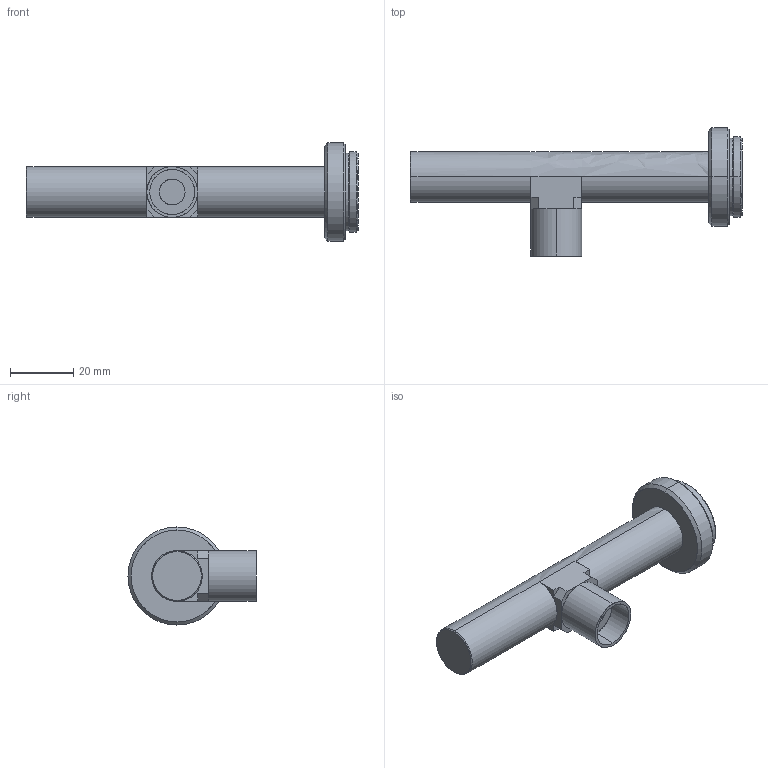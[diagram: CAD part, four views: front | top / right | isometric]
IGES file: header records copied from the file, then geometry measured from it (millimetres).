
Start section: SolidWorks IGES file using analytic representation for surfaces
Bounding box: 104.9 x 40.5 x 31 mm (x, y, z)
Surface area: 8675.3 mm2 (no closed solid volume)
Topology: 0 solids, 0 shells, 48 faces, 660 edges, 660 vertices
Faces by surface type: revolution 25, bspline 23
